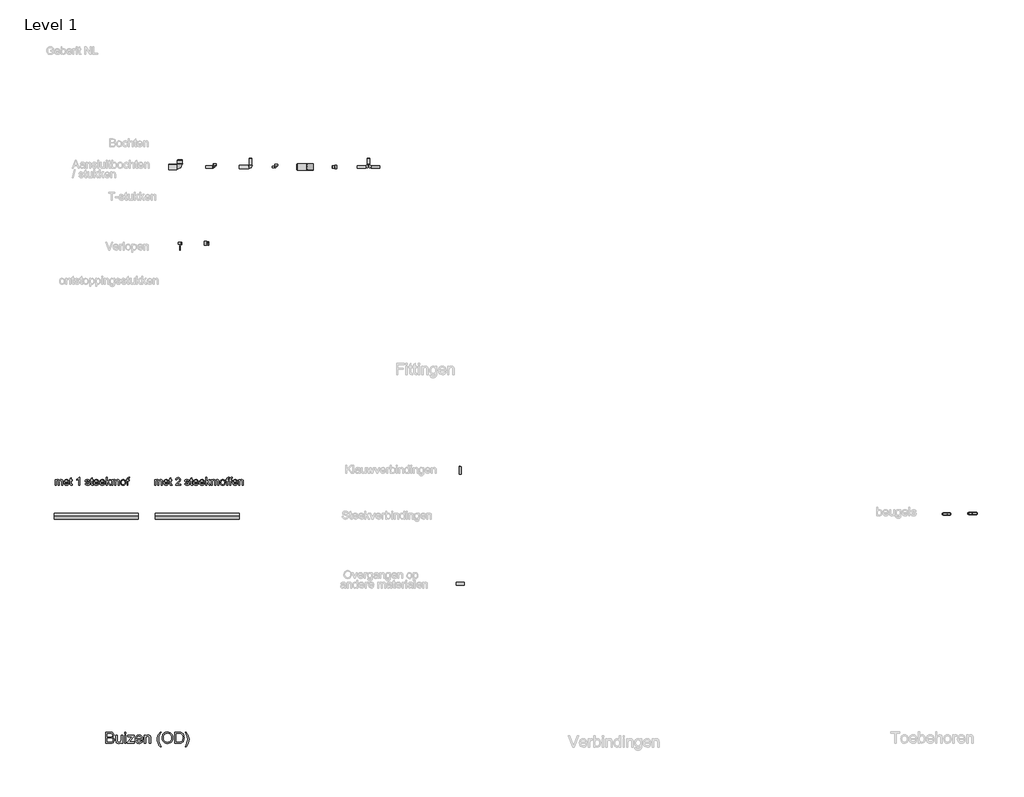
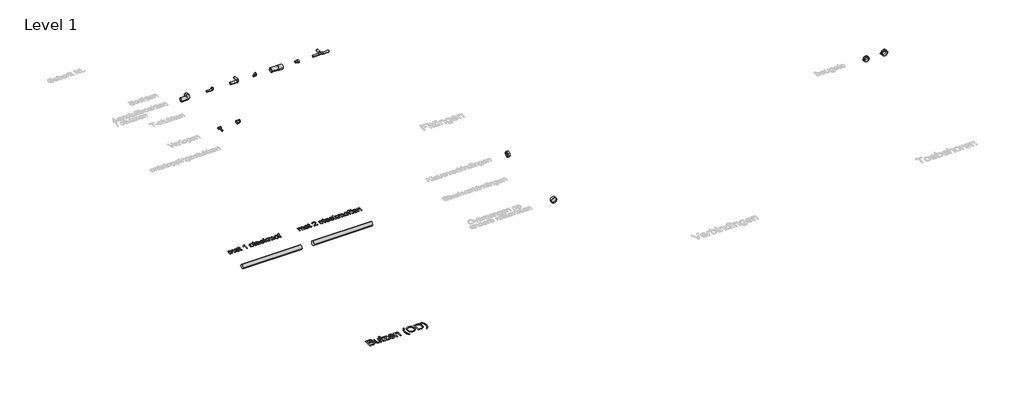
# One storey, part 1 of 6: 11 pipe fittings, 3 proxies, 2 pipe segments, 2 unitary equipment elements.
"""IFC4 building model written with IfcOpenShell, lengths in millimetres."""

from ifc_helpers import new_model, si_unit, point, frame, frame_2d, origin, origin_with_axes, place, context, project, spatial, polyline, circle_curve, trimmed, segment, composite_curve, outline, extrude, transform, mapped, element, save
from components import pipe_fitting_f48e95e4, pipe_fitting_2ba4615a, pipe_fitting_0956f5d3, pipe_fitting_4c57d8c3, pipe_fitting_612d7fab, pipe_fitting_e203270a, pipe_fitting_d0fa80fe, pipe_fitting_f22d951e, pipe_fitting_2b616865, dn30_150_od_f6babe6b, dn40_50_d46_50_a84adbf5, unitary_equipment_8c8ec3e9, dn50_100_od_e17b0297

model = new_model("IFC4")

# Units and contexts
model_context = context("Model", 3, world=origin())
ifc_project = project(units=[si_unit("LENGTHUNIT", "METRE", prefix="MILLI")], contexts=[model_context])

# Site, building, storey
site = spatial("IfcSite", under=ifc_project)
building = spatial("IfcBuilding", under=site)
storey = spatial("IfcBuildingStorey", under=building, Name="Level 1", Elevation=0.0)

# Proxies
placement = place(None, origin())
element("IfcBuildingElementProxy", 1, Name="medium", ObjectType="medium", at=placement, inside=storey, context=model_context, shape_type="SweptSolid", body=[
    extrude(outline(polyline([(-2584.8429039, 10956.4242959), (-2584.8429039, 11157.3369162), (-2508.1762961, 11157.3369162), (-2487.0905265, 11155.8592568), (-2470.6278072, 11151.4262788), (-2458.0094547, 11143.9276174), (-2448.4567856, 11133.2529082), (-2442.441915, 11120.6958695), (-2440.4369581, 11107.5502195), (-2442.1230839, 11095.4530332), (-2447.1814613, 11084.0793482), (-2455.6488786, 11074.1281402), (-2467.5621239, 11066.2983851), (-2453.331222, 11058.8671688), (-2442.8159283, 11047.5609288), (-2436.3228111, 11033.1276919), (-2434.1584387, 11016.3154847), (-2440.0690761, 10989.3129462), (-2454.7107795, 10970.0849806), (-2476.56297, 10959.8823866), (-2508.7649073, 10956.4242959), (-2584.8429039, 10956.4242959)]), holes=[polyline([(-2559.7288264, 11075.7161642), (-2513.8662043, 11075.7161642), (-2487.0843951, 11077.8744052), (-2470.9711637, 11087.169557), (-2465.5510356, 11103.528043), (-2470.6032817, 11119.9110545), (-2485.0733068, 11129.5986137), (-2517.3488206, 11132.2228386), (-2559.7288264, 11132.2228386), (-2559.7288264, 11075.7161642)]), polyline([(-2559.7288264, 10981.5383734), (-2508.2253471, 10981.5383734), (-2489.5859927, 10982.5193921), (-2473.8161178, 10987.9885711), (-2463.3682691, 10999.1476582), (-2459.2725163, 11016.07023), (-2464.0795077, 11035.5925012), (-2470.3764211, 11042.6497042), (-2479.6531788, 11047.2420977), (-2510.6778937, 11050.6020866), (-2559.7288264, 11050.6020866), (-2559.7288264, 10981.5383734)])]), origin_with_axes(), (0.0, 0.0, 1.0), 5.0),
    extrude(outline(polyline([(-2308.588051, 10956.4242959), (-2308.588051, 10981.7836281), (-2317.6747363, 10969.3154941), (-2328.257475, 10960.4096842), (-2340.3362672, 10955.0661982), (-2353.9111128, 10953.2850362), (-2377.5291369, 10958.2882313), (-2393.8140466, 10970.8452701), (-2401.2943138, 10989.3374717), (-2402.7658418, 11012.6857157), (-2402.7658418, 11103.9695014), (-2377.6517643, 11103.9695014), (-2377.6517643, 11024.5069904), (-2376.1311853, 10998.9024036), (-2372.4707595, 10990.3614099), (-2366.1983715, 10983.8682927), (-2347.4854407, 10978.3991137), (-2326.5161669, 10983.99092), (-2318.1591143, 10990.5944019), (-2312.6592784, 10999.2212346), (-2308.588051, 11027.2047917), (-2308.588051, 11103.9695014), (-2283.4739735, 11103.9695014), (-2283.4739735, 10956.4242959), (-2308.588051, 10956.4242959)])), origin_with_axes(), (0.0, 0.0, 1.0), 5.0),
    extrude(outline(polyline([(-2248.9421169, 10956.4242959), (-2248.9421169, 11103.9695014), (-2223.8280393, 11103.9695014), (-2223.8280393, 10956.4242959), (-2248.9421169, 10956.4242959)])), origin_with_axes(), (0.0, 0.0, 1.0), 5.0),
    extrude(outline(polyline([(-2248.9421169, 11132.2228386), (-2248.9421169, 11157.3369162), (-2223.8280393, 11157.3369162), (-2223.8280393, 11132.2228386), (-2248.9421169, 11132.2228386)])), origin_with_axes(), (0.0, 0.0, 1.0), 5.0),
    extrude(outline(polyline([(-2201.8532215, 10956.4242959), (-2201.8532215, 10980.0668454), (-2115.1802234, 11078.8554239), (-2140.8338612, 11078.8554239), (-2195.5747021, 11078.8554239), (-2195.5747021, 11103.9695014), (-2079.4220935, 11103.9695014), (-2079.4220935, 11082.6323457), (-2156.284905, 10994.978329), (-2168.0571289, 10981.5383734), (-2139.0189767, 10981.5383734), (-2076.2828338, 10981.5383734), (-2076.2828338, 10956.4242959), (-2201.8532215, 10956.4242959)])), origin_with_axes(), (0.0, 0.0, 1.0), 5.0),
    extrude(outline(polyline([(-1947.867492, 11000.3739316), (-1923.2439238, 10997.2346719), (-1932.1160113, 10978.6811566), (-1946.2733367, 10964.8120054), (-1965.3970691, 10956.1667785), (-1989.1683773, 10953.2850362), (-2018.6357252, 10958.2575745), (-2041.3095188, 10973.1751894), (-2055.7672812, 10997.069125), (-2060.5865353, 11028.9706253), (-2055.7182303, 11061.9451148), (-2041.1133151, 11086.6054712), (-2018.7460898, 11101.9829386), (-1990.5908544, 11107.1087611), (-1963.3124045, 11101.9952014), (-1941.5153962, 11086.6545222), (-1927.2231807, 11062.0432167), (-1922.4591089, 11029.1177781), (-1922.6062617, 11022.3487494), (-2035.4724578, 11022.3487494), (-2031.1253189, 11003.5499795), (-2021.0269581, 10989.7298792), (-2006.4526998, 10981.2318051), (-1988.677868, 10978.3991137), (-1964.0542998, 10983.6475635), (-1954.9063009, 10990.4533804), (-1947.867492, 11000.3739316)]), holes=[polyline([(-2035.4724578, 11047.4628269), (-1947.5731864, 11047.4628269), (-1950.9699635, 11060.7311042), (-1957.6286276, 11070.2224597), (-1972.270331, 11079.0516276), (-1990.6889563, 11081.9946836), (-2007.6176594, 11079.6463702), (-2021.6155693, 11072.6014299), (-2031.3460481, 11061.6201524), (-2035.4724578, 11047.4628269)])]), origin_with_axes(), (0.0, 0.0, 1.0), 5.0),
    extrude(outline(polyline([(-1897.3450314, 10956.4242959), (-1897.3450314, 11103.9695014), (-1872.2309538, 11103.9695014), (-1872.2309538, 11083.3681097), (-1863.5060192, 11093.7546447), (-1853.0275137, 11101.1735982), (-1840.7954373, 11105.6249704), (-1826.8097901, 11107.1087611), (-1803.0936642, 11102.3262952), (-1786.9068564, 11089.7692564), (-1779.3775382, 11071.3015802), (-1778.0531631, 11047.0213686), (-1778.0531631, 10956.4242959), (-1803.1672406, 10956.4242959), (-1803.1672406, 11043.6368542), (-1806.0612456, 11065.8569267), (-1816.2883651, 11077.6046251), (-1833.5297679, 11081.9946836), (-1848.2389164, 11079.5298742), (-1860.777561, 11072.1354461), (-1869.3676056, 11057.8493619), (-1872.2309538, 11034.7095844), (-1872.2309538, 10956.4242959), (-1897.3450314, 10956.4242959)])), origin_with_axes(), (0.0, 0.0, 1.0), 5.0),
    extrude(outline(polyline([(-1614.8116591, 10899.9176214), (-1634.2726166, 10927.2267282), (-1650.4716871, 10958.8277916), (-1661.3977824, 10993.1879699), (-1665.0398141, 11028.7744216), (-1662.3174874, 11059.9830775), (-1654.1505071, 11089.8428328), (-1637.9391738, 11123.6634509), (-1614.8116591, 11157.3369162), (-1595.9761009, 11157.3369162), (-1619.4714977, 11117.5566098), (-1633.5981663, 11079.0025767), (-1639.9257366, 11028.6272688), (-1637.1788844, 10996.4314628), (-1628.9383277, 10964.2479196), (-1615.2040665, 10932.0766392), (-1595.9761009, 10899.9176214), (-1614.8116591, 10899.9176214)])), origin_with_axes(), (0.0, 0.0, 1.0), 5.0),
    extrude(outline(polyline([(-1577.1405428, 11054.2318557), (-1575.4666797, 11077.7977631), (-1570.4450904, 11098.6597379), (-1562.075775, 11116.8177801), (-1550.3587335, 11132.2718896), (-1535.9960073, 11144.6112648), (-1519.6896378, 11153.4251043), (-1501.4396252, 11158.713408), (-1481.2459693, 11160.4761759), (-1454.8933558, 11157.1652379), (-1431.2630689, 11147.232424), (-1411.6426959, 11131.37671), (-1397.3198235, 11110.2970717), (-1388.564232, 11085.0113159), (-1385.6457015, 11056.5372495), (-1388.7175162, 11027.6830383), (-1397.9329602, 11002.0416633), (-1412.78313, 10980.9252368), (-1432.7591224, 10965.6458712), (-1456.1870741, 10956.3752449), (-1481.3931221, 10953.2850362), (-1508.1504059, 10956.7002074), (-1531.9155828, 10966.9457209), (-1551.486905, 10983.0957405), (-1565.6626245, 11004.2244298), (-1574.2710632, 11028.5352983), (-1577.1405428, 11054.2318557)]), holes=[polyline([(-1552.0264652, 11053.986601), (-1547.004876, 11022.5572159), (-1531.9401083, 10998.608098), (-1509.2969715, 10983.4513598), (-1481.5402749, 10978.3991137), (-1453.3789082, 10983.5004107), (-1430.6989832, 10998.8043017), (-1421.9755814, 11010.0768192), (-1415.7445801, 11023.4891836), (-1410.7597791, 11056.7334532), (-1412.8934946, 11078.9657885), (-1419.2946414, 11098.1814913), (-1429.7976723, 11113.8961839), (-1444.2370406, 11125.6254882), (-1461.6562531, 11132.9279458), (-1481.0988165, 11135.3620983), (-1508.1136177, 11130.6716029), (-1531.081717, 11116.6001166), (-1540.2450443, 11105.6510287), (-1546.7902781, 11091.5657468), (-1552.0264652, 11053.986601)])]), origin_with_axes(), (0.0, 0.0, 1.0), 5.0),
    extrude(outline(polyline([(-1351.1138449, 10956.4242959), (-1351.1138449, 11157.3369162), (-1281.804877, 11157.3369162), (-1245.9486452, 11154.4429111), (-1229.9335157, 11148.8633675), (-1216.4199837, 11140.0709879), (-1202.5263071, 11124.7670969), (-1192.6302814, 11105.735335), (-1186.7073813, 11083.3435842), (-1184.7330812, 11057.9597265), (-1190.0796329, 11017.4191307), (-1203.813894, 10988.1602493), (-1222.1589429, 10969.9378278), (-1246.1693744, 10959.8578612), (-1278.4694136, 10956.4242959), (-1351.1138449, 10956.4242959)]), holes=[polyline([(-1325.9997674, 10981.5383734), (-1281.5596224, 10981.5383734), (-1249.2350577, 10985.1681424), (-1230.5957033, 10995.4197874), (-1221.8707686, 11006.2907003), (-1215.3163378, 11020.3621866), (-1211.2144535, 11037.69556), (-1209.8471588, 11058.352134), (-1212.526566, 11085.7225544), (-1220.5647876, 11105.9315387), (-1232.4412446, 11119.8129527), (-1246.6353583, 11128.2006622), (-1282.2463354, 11132.2228386), (-1325.9997674, 11132.2228386), (-1325.9997674, 10981.5383734)])]), origin_with_axes(), (0.0, 0.0, 1.0), 5.0),
    extrude(outline(polyline([(-1147.0619649, 10899.9176214), (-1165.8975231, 10899.9176214), (-1146.6695575, 10932.0766392), (-1132.9352963, 10964.2479196), (-1124.6947396, 10996.4314628), (-1121.9478874, 11028.6272688), (-1128.2754577, 11078.5611183), (-1142.2549735, 11117.1642023), (-1165.8975231, 11157.3369162), (-1147.0619649, 11157.3369162), (-1123.9344502, 11123.6634509), (-1107.7231169, 11089.8428328), (-1099.5561366, 11059.9830775), (-1096.8338098, 11028.7744216), (-1100.4942357, 10993.1879699), (-1111.4755133, 10958.8277916), (-1127.6929779, 10927.2267282), (-1147.0619649, 10899.9176214)])), origin_with_axes(), (0.0, 0.0, 1.0), 5.0),
])
element("IfcBuildingElementProxy", 2, Name="small", ObjectType="small", at=placement, inside=storey, context=model_context, shape_type="SweptSolid", body=[
    extrude(outline(polyline([(-3490.4351093, 15570.0720581), (-3490.4351093, 15673.3537019), (-3472.8552551, 15673.3537019), (-3472.8552551, 15656.3575538), (-3460.7691053, 15670.280661), (-3443.5669432, 15675.5511837), (-3425.9527532, 15670.1776541), (-3416.2700991, 15655.1214703), (-3402.5530058, 15670.4437554), (-3385.2306689, 15675.5511837), (-3372.0157345, 15673.4266652), (-3362.2429493, 15667.0531096), (-3356.2041664, 15656.2588388), (-3354.1912387, 15640.8721743), (-3354.1912387, 15570.0720581), (-3371.771093, 15570.0720581), (-3371.771093, 15633.3183307), (-3373.4020365, 15647.9968223), (-3379.3077688, 15655.2244772), (-3389.3509473, 15657.9713295), (-3398.874799, 15656.2116272), (-3406.6389485, 15650.9325206), (-3411.8021723, 15641.7734852), (-3413.5232469, 15628.3739967), (-3413.5232469, 15570.0720581), (-3431.1031012, 15570.0720581), (-3431.1031012, 15635.2754629), (-3435.171876, 15652.3059467), (-3440.5411138, 15656.5549838), (-3448.5112772, 15657.9713295), (-3461.5244896, 15654.1944076), (-3470.1770741, 15643.1383274), (-3472.8552551, 15622.1592435), (-3472.8552551, 15570.0720581), (-3490.4351093, 15570.0720581)])), origin_with_axes(), (0.0, 0.0, 1.0), 5.0),
    extrude(outline(polyline([(-3255.5105723, 15600.8368031), (-3238.2740746, 15598.6393213), (-3244.4845358, 15585.6518606), (-3254.3946636, 15575.9434547), (-3267.7812763, 15569.8917959), (-3284.421192, 15567.8745763), (-3305.0483355, 15571.3553531), (-3320.9199911, 15581.7976835), (-3331.0404248, 15598.5234384), (-3334.4139026, 15620.8544887), (-3331.0060891, 15643.9366313), (-3320.7826485, 15661.1988808), (-3305.1255907, 15671.963108), (-3285.416926, 15675.5511837), (-3266.322011, 15671.9716919), (-3251.0641053, 15661.2332165), (-3241.0595544, 15644.0053026), (-3237.7247041, 15620.9574956), (-3237.8277111, 15616.2191756), (-3316.8340484, 15616.2191756), (-3313.7910511, 15603.0600366), (-3306.7221986, 15593.3859664), (-3296.5202177, 15587.4373145), (-3284.0778355, 15585.4544306), (-3266.8413378, 15589.1283454), (-3255.5105723, 15600.8368031)]), holes=[polyline([(-3316.8340484, 15633.7990298), (-3255.3045584, 15633.7990298), (-3262.3433672, 15649.7307728), (-3272.5925596, 15655.9111903), (-3285.4855973, 15657.9713295), (-3297.3356895, 15656.3275101), (-3307.1342264, 15651.3960519), (-3313.9455616, 15643.7091576), (-3316.8340484, 15633.7990298)])]), origin_with_axes(), (0.0, 0.0, 1.0), 5.0),
    extrude(outline(polyline([(-3182.7876595, 15584.7333819), (-3180.5901777, 15569.5570233), (-3193.7407328, 15567.8745763), (-3208.4707279, 15570.7931068), (-3215.8185576, 15578.4499574), (-3217.9473681, 15598.3989717), (-3217.9473681, 15655.7738477), (-3231.1322588, 15655.7738477), (-3231.1322588, 15673.3537019), (-3217.9473681, 15673.3537019), (-3217.9473681, 15698.4530642), (-3200.3675138, 15708.7880957), (-3200.3675138, 15673.3537019), (-3182.7876595, 15673.3537019), (-3182.7876595, 15655.7738477), (-3200.3675138, 15655.7738477), (-3200.3675138, 15598.9140065), (-3199.4404512, 15589.8493941), (-3196.4360815, 15586.6390106), (-3190.4445101, 15585.4544306), (-3182.7876595, 15584.7333819)])), origin_with_axes(), (0.0, 0.0, 1.0), 5.0),
    extrude(outline(polyline([(-3048.7412707, 15570.0720581), (-3066.3211249, 15570.0720581), (-3066.3211249, 15679.6714621), (-3082.9739166, 15667.808494), (-3101.4808335, 15658.9327277), (-3101.4808335, 15675.5511837), (-3075.711926, 15691.9979615), (-3060.0720361, 15710.7108923), (-3048.7412707, 15710.7108923), (-3048.7412707, 15570.0720581)])), origin_with_axes(), (0.0, 0.0, 1.0), 5.0),
    extrude(outline(polyline([(-2954.2495539, 15600.8368031), (-2936.6696996, 15603.0342848), (-2933.8970957, 15595.5147769), (-2928.5321499, 15589.9867367), (-2909.8878904, 15585.4544306), (-2891.9646796, 15589.6090446), (-2886.1276186, 15599.36037), (-2891.9990152, 15607.2575701), (-2910.0939043, 15612.2705755), (-2936.5666927, 15620.8716565), (-2948.1206399, 15630.914835), (-2952.0520721, 15645.0954596), (-2948.8931921, 15658.1945112), (-2940.2749432, 15668.203354), (-2929.0986882, 15673.4052054), (-2913.9738331, 15675.5511837), (-2892.5827213, 15672.1004506), (-2878.9858028, 15662.761153), (-2872.9427279, 15646.9839205), (-2890.5225822, 15644.7864387), (-2897.1321954, 15654.4862607), (-2912.600407, 15657.9713295), (-2929.4248769, 15654.6407711), (-2934.4722179, 15646.8809136), (-2932.377743, 15641.7649013), (-2925.8196333, 15637.8849725), (-2910.6776104, 15634.1423864), (-2884.8743673, 15625.867494), (-2872.8912244, 15616.4938608), (-2868.5477643, 15601.2144952), (-2873.6466088, 15584.3900253), (-2888.359436, 15572.1837007), (-2910.12824, 15567.8745763), (-2927.8540208, 15569.9518833), (-2940.789978, 15576.1838043), (-2949.4253947, 15586.501668), (-2954.2495539, 15600.8368031)])), origin_with_axes(), (0.0, 0.0, 1.0), 5.0),
    extrude(outline(polyline([(-2811.4132379, 15584.7333819), (-2809.2157561, 15569.5570233), (-2822.3663112, 15567.8745763), (-2837.0963063, 15570.7931068), (-2844.444136, 15578.4499574), (-2846.5729465, 15598.3989717), (-2846.5729465, 15655.7738477), (-2859.7578372, 15655.7738477), (-2859.7578372, 15673.3537019), (-2846.5729465, 15673.3537019), (-2846.5729465, 15698.4530642), (-2828.9930922, 15708.7880957), (-2828.9930922, 15673.3537019), (-2811.4132379, 15673.3537019), (-2811.4132379, 15655.7738477), (-2828.9930922, 15655.7738477), (-2828.9930922, 15598.9140065), (-2828.0660296, 15589.8493941), (-2825.06166, 15586.6390106), (-2819.0700885, 15585.4544306), (-2811.4132379, 15584.7333819)])), origin_with_axes(), (0.0, 0.0, 1.0), 5.0),
    extrude(outline(polyline([(-2721.5224987, 15600.8368031), (-2704.2860009, 15598.6393213), (-2710.4964622, 15585.6518606), (-2720.40659, 15575.9434547), (-2733.7932026, 15569.8917959), (-2750.4331184, 15567.8745763), (-2771.0602619, 15571.3553531), (-2786.9319174, 15581.7976835), (-2797.0523511, 15598.5234384), (-2800.425829, 15620.8544887), (-2797.0180155, 15643.9366313), (-2786.7945748, 15661.1988808), (-2771.1375171, 15671.963108), (-2751.4288523, 15675.5511837), (-2732.3339374, 15671.9716919), (-2717.0760316, 15661.2332165), (-2707.0714808, 15644.0053026), (-2703.7366305, 15620.9574956), (-2703.8396374, 15616.2191756), (-2782.8459747, 15616.2191756), (-2779.8029775, 15603.0600366), (-2772.734125, 15593.3859664), (-2762.5321441, 15587.4373145), (-2750.0897619, 15585.4544306), (-2732.8532641, 15589.1283454), (-2721.5224987, 15600.8368031)]), holes=[polyline([(-2782.8459747, 15633.7990298), (-2721.3164848, 15633.7990298), (-2728.3552936, 15649.7307728), (-2738.604486, 15655.9111903), (-2751.4975236, 15657.9713295), (-2763.3476159, 15656.3275101), (-2773.1461528, 15651.3960519), (-2779.9574879, 15643.7091576), (-2782.8459747, 15633.7990298)])]), origin_with_axes(), (0.0, 0.0, 1.0), 5.0),
    extrude(outline(polyline([(-2613.8458912, 15600.8368031), (-2596.6093935, 15598.6393213), (-2602.8198547, 15585.6518606), (-2612.7299825, 15575.9434547), (-2626.1165952, 15569.8917959), (-2642.756511, 15567.8745763), (-2663.3836544, 15571.3553531), (-2679.25531, 15581.7976835), (-2689.3757437, 15598.5234384), (-2692.7492216, 15620.8544887), (-2689.341408, 15643.9366313), (-2679.1179674, 15661.1988808), (-2663.4609097, 15671.963108), (-2643.7522449, 15675.5511837), (-2624.6573299, 15671.9716919), (-2609.3994242, 15661.2332165), (-2599.3948733, 15644.0053026), (-2596.060023, 15620.9574956), (-2596.16303, 15616.2191756), (-2675.1693673, 15616.2191756), (-2672.1263701, 15603.0600366), (-2665.0575175, 15593.3859664), (-2654.8555367, 15587.4373145), (-2642.4131544, 15585.4544306), (-2625.1766567, 15589.1283454), (-2613.8458912, 15600.8368031)]), holes=[polyline([(-2675.1693673, 15633.7990298), (-2613.6398773, 15633.7990298), (-2620.6786862, 15649.7307728), (-2630.9278786, 15655.9111903), (-2643.8209162, 15657.9713295), (-2655.6710084, 15656.3275101), (-2665.4695454, 15651.3960519), (-2672.2808805, 15643.7091576), (-2675.1693673, 15633.7990298)])]), origin_with_axes(), (0.0, 0.0, 1.0), 5.0),
    extrude(outline(polyline([(-2578.4801688, 15570.0720581), (-2578.4801688, 15710.7108923), (-2560.9003145, 15710.7108923), (-2560.9003145, 15635.1381203), (-2521.482985, 15673.3537019), (-2497.1733427, 15673.3537019), (-2537.0713714, 15634.6574211), (-2494.975861, 15570.0720581), (-2515.5085814, 15570.0720581), (-2549.672556, 15622.4339287), (-2560.9003145, 15611.5495268), (-2560.9003145, 15570.0720581), (-2578.4801688, 15570.0720581)])), origin_with_axes(), (0.0, 0.0, 1.0), 5.0),
    extrude(outline(polyline([(-2479.5934885, 15570.0720581), (-2479.5934885, 15673.3537019), (-2462.0136342, 15673.3537019), (-2462.0136342, 15656.3575538), (-2449.9274844, 15670.280661), (-2432.7253223, 15675.5511837), (-2415.1111324, 15670.1776541), (-2405.4284782, 15655.1214703), (-2391.7113849, 15670.4437554), (-2374.389048, 15675.5511837), (-2361.1741136, 15673.4266652), (-2351.4013284, 15667.0531096), (-2345.3625455, 15656.2588388), (-2343.3496178, 15640.8721743), (-2343.3496178, 15570.0720581), (-2360.9294721, 15570.0720581), (-2360.9294721, 15633.3183307), (-2362.5604156, 15647.9968223), (-2368.4661479, 15655.2244772), (-2378.5093264, 15657.9713295), (-2388.0331781, 15656.2116272), (-2395.7973276, 15650.9325206), (-2400.9605514, 15641.7734852), (-2402.681626, 15628.3739967), (-2402.681626, 15570.0720581), (-2420.2614803, 15570.0720581), (-2420.2614803, 15635.2754629), (-2424.3302552, 15652.3059467), (-2429.6994929, 15656.5549838), (-2437.6696563, 15657.9713295), (-2450.6828687, 15654.1944076), (-2459.3354533, 15643.1383274), (-2462.0136342, 15622.1592435), (-2462.0136342, 15570.0720581), (-2479.5934885, 15570.0720581)])), origin_with_axes(), (0.0, 0.0, 1.0), 5.0),
    extrude(outline(polyline([(-2321.3748, 15621.71288), (-2317.5721264, 15646.6148123), (-2306.1641058, 15664.1174113), (-2292.0693202, 15672.6927406), (-2275.1933469, 15675.5511837), (-2256.7250576, 15672.0704069), (-2241.9736027, 15661.6280765), (-2232.3038244, 15645.0482481), (-2229.080565, 15623.1549774), (-2230.5054946, 15605.394861), (-2234.7802834, 15591.8751977), (-2241.7804646, 15581.750472), (-2251.3815716, 15574.1751686), (-2262.7853003, 15569.4497244), (-2275.1933469, 15567.8745763), (-2293.8848179, 15571.3424772), (-2308.6191049, 15581.7461801), (-2318.1858762, 15598.6736569), (-2321.3748, 15621.71288)]), holes=[polyline([(-2303.7949457, 15621.7472157), (-2301.7605583, 15605.8369325), (-2295.657396, 15594.5018751), (-2286.4726088, 15587.7162917), (-2275.1933469, 15585.4544306), (-2263.9655884, 15587.7291676), (-2254.797969, 15594.5533786), (-2248.6948067, 15606.0386545), (-2246.6604193, 15622.2965861), (-2248.7076826, 15637.743338), (-2254.8494725, 15648.9238849), (-2264.0299677, 15655.7094683), (-2275.1933469, 15657.9713295), (-2286.4726088, 15655.7180522), (-2295.657396, 15648.9582206), (-2301.7605583, 15637.6489149), (-2303.7949457, 15621.7472157)])]), origin_with_axes(), (0.0, 0.0, 1.0), 5.0),
    extrude(outline(polyline([(-2204.9082654, 15570.0720581), (-2204.9082654, 15655.7738477), (-2220.2906379, 15655.7738477), (-2220.2906379, 15673.3537019), (-2204.9082654, 15673.3537019), (-2204.9082654, 15683.7574048), (-2203.0541401, 15698.4187286), (-2194.0581991, 15708.8911027), (-2176.3410022, 15712.9083741), (-2160.3062523, 15710.9855775), (-2162.8814263, 15694.5044641), (-2173.0104439, 15695.3285198), (-2184.0836919, 15692.4099893), (-2187.3284111, 15681.5255873), (-2187.3284111, 15673.3537019), (-2167.5510751, 15673.3537019), (-2167.5510751, 15655.7738477), (-2187.3284111, 15655.7738477), (-2187.3284111, 15570.0720581), (-2204.9082654, 15570.0720581)])), origin_with_axes(), (0.0, 0.0, 1.0), 5.0),
])
element("IfcBuildingElementProxy", 3, Name="small", ObjectType="small", at=placement, inside=storey, context=model_context, shape_type="SweptSolid", body=[
    extrude(outline(polyline([(-1710.4351093, 15570.0720581), (-1710.4351093, 15673.3537019), (-1692.8552551, 15673.3537019), (-1692.8552551, 15656.3575538), (-1680.7691053, 15670.280661), (-1663.5669432, 15675.5511837), (-1645.9527532, 15670.1776541), (-1636.2700991, 15655.1214703), (-1622.5530058, 15670.4437554), (-1605.2306689, 15675.5511837), (-1592.0157345, 15673.4266652), (-1582.2429493, 15667.0531096), (-1576.2041664, 15656.2588388), (-1574.1912387, 15640.8721743), (-1574.1912387, 15570.0720581), (-1591.771093, 15570.0720581), (-1591.771093, 15633.3183307), (-1593.4020365, 15647.9968223), (-1599.3077688, 15655.2244772), (-1609.3509473, 15657.9713295), (-1618.874799, 15656.2116272), (-1626.6389485, 15650.9325206), (-1631.8021723, 15641.7734852), (-1633.5232469, 15628.3739967), (-1633.5232469, 15570.0720581), (-1651.1031012, 15570.0720581), (-1651.1031012, 15635.2754629), (-1655.171876, 15652.3059467), (-1660.5411138, 15656.5549838), (-1668.5112772, 15657.9713295), (-1681.5244896, 15654.1944076), (-1690.1770741, 15643.1383274), (-1692.8552551, 15622.1592435), (-1692.8552551, 15570.0720581), (-1710.4351093, 15570.0720581)])), origin_with_axes(), (0.0, 0.0, 1.0), 5.0),
    extrude(outline(polyline([(-1475.5105723, 15600.8368031), (-1458.2740746, 15598.6393213), (-1464.4845358, 15585.6518606), (-1474.3946636, 15575.9434547), (-1487.7812763, 15569.8917959), (-1504.421192, 15567.8745763), (-1525.0483355, 15571.3553531), (-1540.9199911, 15581.7976835), (-1551.0404248, 15598.5234384), (-1554.4139026, 15620.8544887), (-1551.0060891, 15643.9366313), (-1540.7826485, 15661.1988808), (-1525.1255907, 15671.963108), (-1505.416926, 15675.5511837), (-1486.322011, 15671.9716919), (-1471.0641053, 15661.2332165), (-1461.0595544, 15644.0053026), (-1457.7247041, 15620.9574956), (-1457.8277111, 15616.2191756), (-1536.8340484, 15616.2191756), (-1533.7910511, 15603.0600366), (-1526.7221986, 15593.3859664), (-1516.5202177, 15587.4373145), (-1504.0778355, 15585.4544306), (-1486.8413378, 15589.1283454), (-1475.5105723, 15600.8368031)]), holes=[polyline([(-1536.8340484, 15633.7990298), (-1475.3045584, 15633.7990298), (-1482.3433672, 15649.7307728), (-1492.5925596, 15655.9111903), (-1505.4855973, 15657.9713295), (-1517.3356895, 15656.3275101), (-1527.1342264, 15651.3960519), (-1533.9455616, 15643.7091576), (-1536.8340484, 15633.7990298)])]), origin_with_axes(), (0.0, 0.0, 1.0), 5.0),
    extrude(outline(polyline([(-1402.7876595, 15584.7333819), (-1400.5901777, 15569.5570233), (-1413.7407328, 15567.8745763), (-1428.4707279, 15570.7931068), (-1435.8185576, 15578.4499574), (-1437.9473681, 15598.3989717), (-1437.9473681, 15655.7738477), (-1451.1322588, 15655.7738477), (-1451.1322588, 15673.3537019), (-1437.9473681, 15673.3537019), (-1437.9473681, 15698.4530642), (-1420.3675138, 15708.7880957), (-1420.3675138, 15673.3537019), (-1402.7876595, 15673.3537019), (-1402.7876595, 15655.7738477), (-1420.3675138, 15655.7738477), (-1420.3675138, 15598.9140065), (-1419.4404512, 15589.8493941), (-1416.4360815, 15586.6390106), (-1410.4445101, 15585.4544306), (-1402.7876595, 15584.7333819)])), origin_with_axes(), (0.0, 0.0, 1.0), 5.0),
    extrude(outline(polyline([(-1244.568971, 15587.6519124), (-1244.568971, 15570.0720581), (-1336.863206, 15570.0720581), (-1334.9747451, 15582.1925435), (-1324.296357, 15600.8539709), (-1302.2872035, 15621.2321809), (-1271.9344864, 15650.5204928), (-1266.2433519, 15660.6151747), (-1264.3463071, 15670.4351715), (-1266.136053, 15679.2379745), (-1271.5052907, 15686.5557605), (-1279.7587233, 15691.4872186), (-1290.2010537, 15693.131038), (-1301.1670029, 15691.5258462), (-1309.6865367, 15686.7102709), (-1315.1845331, 15679.0620042), (-1317.0858699, 15668.9587384), (-1334.6657242, 15671.1562202), (-1330.4038113, 15688.1609523), (-1321.1889804, 15700.5818747), (-1307.5019308, 15708.1786379), (-1289.8233615, 15710.7108923), (-1272.0160336, 15707.8953687), (-1258.3547357, 15699.4487981), (-1249.6635235, 15686.8304457), (-1246.7664528, 15671.4995767), (-1249.8909972, 15654.8296172), (-1260.2775322, 15637.5931195), (-1285.4627336, 15613.506659), (-1305.6864332, 15596.5963499), (-1313.617969, 15587.6519124), (-1244.568971, 15587.6519124)])), origin_with_axes(), (0.0, 0.0, 1.0), 5.0),
    extrude(outline(polyline([(-1174.2495539, 15600.8368031), (-1156.6696996, 15603.0342848), (-1153.8970957, 15595.5147769), (-1148.5321499, 15589.9867367), (-1129.8878904, 15585.4544306), (-1111.9646796, 15589.6090446), (-1106.1276186, 15599.36037), (-1111.9990152, 15607.2575701), (-1130.0939043, 15612.2705755), (-1156.5666927, 15620.8716565), (-1168.1206399, 15630.914835), (-1172.0520721, 15645.0954596), (-1168.8931921, 15658.1945112), (-1160.2749432, 15668.203354), (-1149.0986882, 15673.4052054), (-1133.9738331, 15675.5511837), (-1112.5827213, 15672.1004506), (-1098.9858028, 15662.761153), (-1092.9427279, 15646.9839205), (-1110.5225822, 15644.7864387), (-1117.1321954, 15654.4862607), (-1132.600407, 15657.9713295), (-1149.4248769, 15654.6407711), (-1154.4722179, 15646.8809136), (-1152.377743, 15641.7649013), (-1145.8196333, 15637.8849725), (-1130.6776104, 15634.1423864), (-1104.8743673, 15625.867494), (-1092.8912244, 15616.4938608), (-1088.5477643, 15601.2144952), (-1093.6466088, 15584.3900253), (-1108.359436, 15572.1837007), (-1130.12824, 15567.8745763), (-1147.8540208, 15569.9518833), (-1160.789978, 15576.1838043), (-1169.4253947, 15586.501668), (-1174.2495539, 15600.8368031)])), origin_with_axes(), (0.0, 0.0, 1.0), 5.0),
    extrude(outline(polyline([(-1031.4132379, 15584.7333819), (-1029.2157561, 15569.5570233), (-1042.3663112, 15567.8745763), (-1057.0963063, 15570.7931068), (-1064.444136, 15578.4499574), (-1066.5729465, 15598.3989717), (-1066.5729465, 15655.7738477), (-1079.7578372, 15655.7738477), (-1079.7578372, 15673.3537019), (-1066.5729465, 15673.3537019), (-1066.5729465, 15698.4530642), (-1048.9930922, 15708.7880957), (-1048.9930922, 15673.3537019), (-1031.4132379, 15673.3537019), (-1031.4132379, 15655.7738477), (-1048.9930922, 15655.7738477), (-1048.9930922, 15598.9140065), (-1048.0660296, 15589.8493941), (-1045.06166, 15586.6390106), (-1039.0700885, 15585.4544306), (-1031.4132379, 15584.7333819)])), origin_with_axes(), (0.0, 0.0, 1.0), 5.0),
    extrude(outline(polyline([(-941.5224987, 15600.8368031), (-924.2860009, 15598.6393213), (-930.4964622, 15585.6518606), (-940.40659, 15575.9434547), (-953.7932026, 15569.8917959), (-970.4331184, 15567.8745763), (-991.0602619, 15571.3553531), (-1006.9319174, 15581.7976835), (-1017.0523511, 15598.5234384), (-1020.425829, 15620.8544887), (-1017.0180155, 15643.9366313), (-1006.7945748, 15661.1988808), (-991.1375171, 15671.963108), (-971.4288523, 15675.5511837), (-952.3339374, 15671.9716919), (-937.0760316, 15661.2332165), (-927.0714808, 15644.0053026), (-923.7366305, 15620.9574956), (-923.8396374, 15616.2191756), (-1002.8459747, 15616.2191756), (-999.8029775, 15603.0600366), (-992.734125, 15593.3859664), (-982.5321441, 15587.4373145), (-970.0897619, 15585.4544306), (-952.8532641, 15589.1283454), (-941.5224987, 15600.8368031)]), holes=[polyline([(-1002.8459747, 15633.7990298), (-941.3164848, 15633.7990298), (-948.3552936, 15649.7307728), (-958.604486, 15655.9111903), (-971.4975236, 15657.9713295), (-983.3476159, 15656.3275101), (-993.1461528, 15651.3960519), (-999.9574879, 15643.7091576), (-1002.8459747, 15633.7990298)])]), origin_with_axes(), (0.0, 0.0, 1.0), 5.0),
    extrude(outline(polyline([(-833.8458912, 15600.8368031), (-816.6093935, 15598.6393213), (-822.8198547, 15585.6518606), (-832.7299825, 15575.9434547), (-846.1165952, 15569.8917959), (-862.756511, 15567.8745763), (-883.3836544, 15571.3553531), (-899.25531, 15581.7976835), (-909.3757437, 15598.5234384), (-912.7492216, 15620.8544887), (-909.341408, 15643.9366313), (-899.1179674, 15661.1988808), (-883.4609097, 15671.963108), (-863.7522449, 15675.5511837), (-844.6573299, 15671.9716919), (-829.3994242, 15661.2332165), (-819.3948733, 15644.0053026), (-816.060023, 15620.9574956), (-816.16303, 15616.2191756), (-895.1693673, 15616.2191756), (-892.1263701, 15603.0600366), (-885.0575175, 15593.3859664), (-874.8555367, 15587.4373145), (-862.4131544, 15585.4544306), (-845.1766567, 15589.1283454), (-833.8458912, 15600.8368031)]), holes=[polyline([(-895.1693673, 15633.7990298), (-833.6398773, 15633.7990298), (-840.6786862, 15649.7307728), (-850.9278786, 15655.9111903), (-863.8209162, 15657.9713295), (-875.6710084, 15656.3275101), (-885.4695454, 15651.3960519), (-892.2808805, 15643.7091576), (-895.1693673, 15633.7990298)])]), origin_with_axes(), (0.0, 0.0, 1.0), 5.0),
    extrude(outline(polyline([(-798.4801688, 15570.0720581), (-798.4801688, 15710.7108923), (-780.9003145, 15710.7108923), (-780.9003145, 15635.1381203), (-741.482985, 15673.3537019), (-717.1733427, 15673.3537019), (-757.0713714, 15634.6574211), (-714.975861, 15570.0720581), (-735.5085814, 15570.0720581), (-769.672556, 15622.4339287), (-780.9003145, 15611.5495268), (-780.9003145, 15570.0720581), (-798.4801688, 15570.0720581)])), origin_with_axes(), (0.0, 0.0, 1.0), 5.0),
    extrude(outline(polyline([(-699.5934885, 15570.0720581), (-699.5934885, 15673.3537019), (-682.0136342, 15673.3537019), (-682.0136342, 15656.3575538), (-669.9274844, 15670.280661), (-652.7253223, 15675.5511837), (-635.1111324, 15670.1776541), (-625.4284782, 15655.1214703), (-611.7113849, 15670.4437554), (-594.389048, 15675.5511837), (-581.1741136, 15673.4266652), (-571.4013284, 15667.0531096), (-565.3625455, 15656.2588388), (-563.3496178, 15640.8721743), (-563.3496178, 15570.0720581), (-580.9294721, 15570.0720581), (-580.9294721, 15633.3183307), (-582.5604156, 15647.9968223), (-588.4661479, 15655.2244772), (-598.5093264, 15657.9713295), (-608.0331781, 15656.2116272), (-615.7973276, 15650.9325206), (-620.9605514, 15641.7734852), (-622.681626, 15628.3739967), (-622.681626, 15570.0720581), (-640.2614803, 15570.0720581), (-640.2614803, 15635.2754629), (-644.3302552, 15652.3059467), (-649.6994929, 15656.5549838), (-657.6696563, 15657.9713295), (-670.6828687, 15654.1944076), (-679.3354533, 15643.1383274), (-682.0136342, 15622.1592435), (-682.0136342, 15570.0720581), (-699.5934885, 15570.0720581)])), origin_with_axes(), (0.0, 0.0, 1.0), 5.0),
    extrude(outline(polyline([(-541.3748, 15621.71288), (-537.5721264, 15646.6148123), (-526.1641058, 15664.1174113), (-512.0693202, 15672.6927406), (-495.1933469, 15675.5511837), (-476.7250576, 15672.0704069), (-461.9736027, 15661.6280765), (-452.3038244, 15645.0482481), (-449.080565, 15623.1549774), (-450.5054946, 15605.394861), (-454.7802834, 15591.8751977), (-461.7804646, 15581.750472), (-471.3815716, 15574.1751686), (-482.7853003, 15569.4497244), (-495.1933469, 15567.8745763), (-513.8848179, 15571.3424772), (-528.6191049, 15581.7461801), (-538.1858762, 15598.6736569), (-541.3748, 15621.71288)]), holes=[polyline([(-523.7949457, 15621.7472157), (-521.7605583, 15605.8369325), (-515.657396, 15594.5018751), (-506.4726088, 15587.7162917), (-495.1933469, 15585.4544306), (-483.9655884, 15587.7291676), (-474.797969, 15594.5533786), (-468.6948067, 15606.0386545), (-466.6604193, 15622.2965861), (-468.7076826, 15637.743338), (-474.8494725, 15648.9238849), (-484.0299677, 15655.7094683), (-495.1933469, 15657.9713295), (-506.4726088, 15655.7180522), (-515.657396, 15648.9582206), (-521.7605583, 15637.6489149), (-523.7949457, 15621.7472157)])]), origin_with_axes(), (0.0, 0.0, 1.0), 5.0),
    extrude(outline(polyline([(-424.9082654, 15570.0720581), (-424.9082654, 15655.7738477), (-440.2906379, 15655.7738477), (-440.2906379, 15673.3537019), (-424.9082654, 15673.3537019), (-424.9082654, 15683.7574048), (-423.0541401, 15698.4187286), (-414.0581991, 15708.8911027), (-396.3410022, 15712.9083741), (-380.3062523, 15710.9855775), (-382.8814263, 15694.5044641), (-393.0104439, 15695.3285198), (-404.0836919, 15692.4099893), (-407.3284111, 15681.5255873), (-407.3284111, 15673.3537019), (-387.5510751, 15673.3537019), (-387.5510751, 15655.7738477), (-407.3284111, 15655.7738477), (-407.3284111, 15570.0720581), (-424.9082654, 15570.0720581)])), origin_with_axes(), (0.0, 0.0, 1.0), 5.0),
    extrude(outline(polyline([(-367.773739, 15570.0720581), (-367.773739, 15655.7738477), (-383.1561115, 15655.7738477), (-383.1561115, 15673.3537019), (-367.773739, 15673.3537019), (-367.773739, 15683.7574048), (-365.9196137, 15698.4187286), (-356.9236727, 15708.8911027), (-339.2064758, 15712.9083741), (-323.1717259, 15710.9855775), (-325.7468999, 15694.5044641), (-335.8759175, 15695.3285198), (-346.9491655, 15692.4099893), (-350.1938847, 15681.5255873), (-350.1938847, 15673.3537019), (-330.4165487, 15673.3537019), (-330.4165487, 15655.7738477), (-350.1938847, 15655.7738477), (-350.1938847, 15570.0720581), (-367.773739, 15570.0720581)])), origin_with_axes(), (0.0, 0.0, 1.0), 5.0),
    extrude(outline(polyline([(-242.7232912, 15600.8368031), (-225.4867935, 15598.6393213), (-231.6972547, 15585.6518606), (-241.6073825, 15575.9434547), (-254.9939952, 15569.8917959), (-271.6339109, 15567.8745763), (-292.2610544, 15571.3553531), (-308.1327099, 15581.7976835), (-318.2531436, 15598.5234384), (-321.6266215, 15620.8544887), (-318.218808, 15643.9366313), (-307.9953673, 15661.1988808), (-292.3383096, 15671.963108), (-272.6296449, 15675.5511837), (-253.5347299, 15671.9716919), (-238.2768242, 15661.2332165), (-228.2722733, 15644.0053026), (-224.937423, 15620.9574956), (-225.04043, 15616.2191756), (-304.0467673, 15616.2191756), (-301.00377, 15603.0600366), (-293.9349175, 15593.3859664), (-283.7329366, 15587.4373145), (-271.2905544, 15585.4544306), (-254.0540567, 15589.1283454), (-242.7232912, 15600.8368031)]), holes=[polyline([(-304.0467673, 15633.7990298), (-242.5172773, 15633.7990298), (-249.5560861, 15649.7307728), (-259.8052785, 15655.9111903), (-272.6983162, 15657.9713295), (-284.5484084, 15656.3275101), (-294.3469453, 15651.3960519), (-301.1582805, 15643.7091576), (-304.0467673, 15633.7990298)])]), origin_with_axes(), (0.0, 0.0, 1.0), 5.0),
    extrude(outline(polyline([(-207.3575687, 15570.0720581), (-207.3575687, 15673.3537019), (-189.7777145, 15673.3537019), (-189.7777145, 15658.9327277), (-176.3353064, 15671.3965697), (-157.9828999, 15675.5511837), (-141.3816117, 15672.2034576), (-130.0508463, 15663.4135304), (-124.7803236, 15650.4861571), (-123.8532609, 15633.490009), (-123.8532609, 15570.0720581), (-141.4331152, 15570.0720581), (-141.4331152, 15631.1208489), (-143.4589187, 15646.6748997), (-150.6179023, 15654.8982885), (-162.6868843, 15657.9713295), (-172.9832882, 15656.2459629), (-181.7603395, 15651.0698632), (-187.7733707, 15641.0696043), (-189.7777145, 15624.8717601), (-189.7777145, 15570.0720581), (-207.3575687, 15570.0720581)])), origin_with_axes(), (0.0, 0.0, 1.0), 5.0),
])

# Pipe fittings
pipe_fitting_shape = pipe_fitting_f48e95e4(model_context)
element("IfcPipeFitting", 4, ObjectType="NLRS_52_PIF_UN_Geberit overgangsklemkoppeling_PRO_101613 : d48-210 / ø48-210", at=placement, inside=storey, context=model_context, shape_type="MappedRepresentation", body=[
    mapped(pipe_fitting_shape, transform((3750.3961154, 13808.2722699, 0.0), x_axis=(0.0, -1.0, 0.0), y_axis=(1.0, 0.0, 0.0), z_axis=(0.0, 0.0, 1.0))),
])
pipe_fitting_2_shape = pipe_fitting_2ba4615a(model_context)
element("IfcPipeFitting", 5, ObjectType="NLRS_52_PIF_UN_Geberit Silent-PP aansluitbocht 87,5° voor wc_PRO_101524 : DN90-100 / d90-110 - OD", at=placement, inside=storey, context=model_context, shape_type="MappedRepresentation", body=[
    mapped(pipe_fitting_2_shape, transform((-1259.0077904, 21260.964942, 0.0), x_axis=(1.0, 0.0, 0.0), y_axis=(0.0, 1.0, 0.0), z_axis=(0.0, 0.0, 1.0))),
])
pipe_fitting_3_shape = pipe_fitting_0956f5d3(model_context)
element("IfcPipeFitting", 6, ObjectType="NLRS_52_PIF_UN_Geberit Silent-PP aansluitbocht 90° lang_PRO_101523 : DN40-40 / d40-46 - OD", at=placement, inside=storey, context=model_context, shape_type="MappedRepresentation", body=[
    mapped(pipe_fitting_3_shape, transform((-639.0077904, 21260.964942, 0.0), x_axis=(1.0, 0.0, 0.0), y_axis=(0.0, 1.0, 0.0), z_axis=(0.0, 0.0, 1.0))),
])
pipe_fitting_4_shape = pipe_fitting_4c57d8c3(model_context)
element("IfcPipeFitting", 7, ObjectType="NLRS_52_PIF_UN_Geberit Silent-PP aansluitbocht 90°_PRO_101520 : DN30-50 / d32-58 - OD", at=placement, inside=storey, context=model_context, shape_type="MappedRepresentation", body=[
    mapped(pipe_fitting_4_shape, transform((460.9922096, 21260.964942, 0.0), x_axis=(1.0, 0.0, 0.0), y_axis=(0.0, 1.0, 0.0), z_axis=(0.0, 0.0, 1.0))),
])
pipe_fitting_5_shape = pipe_fitting_612d7fab(model_context)
element("IfcPipeFitting", 8, ObjectType="NLRS_52_PIF_UN_Geberit Silent-PP aansluitstuk voor wc_PRO_101526 : DN100-100 / d110-110 - OD", at=placement, inside=storey, context=model_context, shape_type="MappedRepresentation", body=[
    mapped(pipe_fitting_5_shape, transform((1011.3752995, 21260.964942, 0.0), x_axis=(1.0, 0.0, 0.0), y_axis=(0.0, 1.0, 0.0), z_axis=(0.0, 0.0, 1.0))),
])
pipe_fitting_6_shape = pipe_fitting_e203270a(model_context)
element("IfcPipeFitting", 9, ObjectType="NLRS_52_PIF_UN_Geberit Silent-PP verloop centrisch, kort_PRO_101513 : DN30-50 / d32-50 - OD", at=placement, inside=storey, context=model_context, shape_type="MappedRepresentation", body=[
    mapped(pipe_fitting_6_shape, transform((-1259.0077904, 19895.2036212, 0.0), x_axis=(1.0, 0.0, 0.0), y_axis=(0.0, 1.0, 0.0), z_axis=(0.0, 0.0, 1.0))),
])
pipe_fitting_7_shape = pipe_fitting_d0fa80fe(model_context)
element("IfcPipeFitting", 10, ObjectType="NLRS_52_PIF_UN_Geberit Silent-PP aansluitbocht 90° verlengd_PRO_101521 : DN40-50 / d40-50 - OD", at=placement, inside=storey, context=model_context, shape_type="MappedRepresentation", body=[
    mapped(pipe_fitting_7_shape, transform((0.9922096, 21260.964942, 0.0), x_axis=(1.0, 0.0, 0.0), y_axis=(0.0, 1.0, 0.0), z_axis=(0.0, 0.0, 1.0))),
])
pipe_fitting_8_shape = pipe_fitting_f22d951e(model_context)
element("IfcPipeFitting", 11, ObjectType="NLRS_52_PIF_UN_Geberit Silent-PP aansluitstuk_PRO_101525 : DN30-50 / d32-50 - OD", at=placement, inside=storey, context=model_context, shape_type="MappedRepresentation", body=[
    mapped(pipe_fitting_8_shape, transform((1511.3752995, 21260.964942, 0.0), x_axis=(1.0, 0.0, 0.0), y_axis=(0.0, 1.0, 0.0), z_axis=(0.0, 0.0, 1.0))),
])
pipe_fitting_9_shape = pipe_fitting_2b616865(model_context)
element("IfcPipeFitting", 12, ObjectType="NLRS_52_PIF_UN_Geberit Silent-PP verloop excentrisch, kort_PRO_135379 : DN50-100 / d50-110 - OD", at=placement, inside=storey, context=model_context, shape_type="MappedRepresentation", body=[
    mapped(pipe_fitting_9_shape, transform((-785.4056252, 19895.2036212, 0.0), x_axis=(1.0, 0.0, 0.0), y_axis=(0.0, 1.0, 0.0), z_axis=(0.0, 0.0, 1.0))),
])
dn30_150_od_shape = dn30_150_od_f6babe6b(model_context)
element("IfcPipeFitting", 13, ObjectType="NLRS_52_PIF_UN_Geberit fixatieklauw_PRO_223189 : DN30-150 - OD", at=placement, inside=storey, context=model_context, shape_type="MappedRepresentation", body=[
    mapped(dn30_150_od_shape, transform((3731.3752995, 15835.2036212, 0.0), x_axis=(1.0, 0.0, 0.0), y_axis=(0.0, 1.0, 0.0), z_axis=(0.0, 0.0, 1.0))),
])
dn40_50_d46_50_shape = dn40_50_d46_50_a84adbf5(model_context)
element("IfcPipeFitting", 14, ObjectType="NLRS_52_PIF_UN_Geberit Silent-PP dubbele aansluitbocht 90° verlengd_PRO_101522 : DN40-50 / d46-50", at=placement, inside=storey, context=model_context, shape_type="MappedRepresentation", body=[
    mapped(dn40_50_d46_50_shape, transform((2111.3752995, 21260.964942, 0.0), x_axis=(1.0, 0.0, 0.0), y_axis=(0.0, 1.0, 0.0), z_axis=(0.0, 0.0, 1.0))),
])

# Pipe segments
element("IfcPipeSegment", 15, ObjectType="NLRS_52_PI_Geberit Silent-PP buis met steekmof_PRO_101480 - OD", at=placement, inside=storey, context=model_context, shape_type="SweptSolid", body=[
    extrude(outline(composite_curve([segment(trimmed(circle_curve(frame_2d((15015.2036212, 0.0)), 55.0), [point((14960.2036212, 0.0))], [point((15015.2036212, 55.0))], False, "CARTESIAN"), True, "CONTINUOUS"), segment(trimmed(circle_curve(frame_2d((15015.2036212, 0.0)), 55.0), [point((15015.2036212, 55.0))], [point((15070.2036212, 0.0))], False, "CARTESIAN"), True, "CONTINUOUS"), segment(trimmed(circle_curve(frame_2d((15015.2036212, 0.0)), 55.0), [point((15070.2036212, 0.0))], [point((15015.2036212, -55.0))], False, "CARTESIAN"), True, "CONTINUOUS"), segment(trimmed(circle_curve(frame_2d((15015.2036212, 0.0)), 55.0), [point((15015.2036212, -55.0))], [point((14960.2036212, 0.0))], False, "CARTESIAN"), True, "CONTINUOUS")], self_intersect=False)), frame((-3502.4750928, 0.0, 0.0), z_axis=(1.0, 0.0, 0.0), x_axis=(0.0, 1.0, 0.0)), (0.0, 0.0, 1.0), 1500.0),
])
element("IfcPipeSegment", 16, ObjectType="NLRS_52_PI_Geberit Silent-PP buis met twee steekmoffen_PRO_101487 - OD", at=placement, inside=storey, context=model_context, shape_type="SweptSolid", body=[
    extrude(outline(composite_curve([segment(trimmed(circle_curve(frame_2d((15015.2036212, 0.0)), 55.0), [point((14960.2036212, 0.0))], [point((15015.2036212, 55.0))], False, "CARTESIAN"), True, "CONTINUOUS"), segment(trimmed(circle_curve(frame_2d((15015.2036212, 0.0)), 55.0), [point((15015.2036212, 55.0))], [point((15070.2036212, 0.0))], False, "CARTESIAN"), True, "CONTINUOUS"), segment(trimmed(circle_curve(frame_2d((15015.2036212, 0.0)), 55.0), [point((15070.2036212, 0.0))], [point((15015.2036212, -55.0))], False, "CARTESIAN"), True, "CONTINUOUS"), segment(trimmed(circle_curve(frame_2d((15015.2036212, 0.0)), 55.0), [point((15015.2036212, -55.0))], [point((14960.2036212, 0.0))], False, "CARTESIAN"), True, "CONTINUOUS")], self_intersect=False)), frame((-1696.3931595, 0.0, 0.0), z_axis=(1.0, 0.0, 0.0), x_axis=(0.0, 1.0, 0.0)), (0.0, 0.0, 1.0), 1500.0),
])

# Unitary equipment
unitary_equipment_shape = unitary_equipment_8c8ec3e9(model_context)
element("IfcUnitaryEquipment", 17, ObjectType="NLRS_52_ME_UN_Geberit beugel geïsoleerd, met draadbus M10 _ M12_PRO_334350 : DN125-150 - OD", at=placement, inside=storey, context=model_context, shape_type="MappedRepresentation", body=[
    mapped(unitary_equipment_shape, transform((12915.4978814, 15065.1223246, 0.0), x_axis=(1.0, 0.0, 0.0), y_axis=(0.0, 1.0, 0.0), z_axis=(0.0, 0.0, 1.0))),
])
dn50_100_od_shape = dn50_100_od_e17b0297(model_context)
element("IfcUnitaryEquipment", 18, ObjectType="NLRS_52_ME_UN_Geberit beugel geïsoleerd, met draadbus M8 _ M10_PRO_178429 : DN50-100 - OD", at=placement, inside=storey, context=model_context, shape_type="MappedRepresentation", body=[
    mapped(dn50_100_od_shape, transform((12450.0295861, 15058.2519439, 0.0), x_axis=(1.0, 0.0, 0.0), y_axis=(0.0, 1.0, 0.0), z_axis=(0.0, 0.0, 1.0))),
])

save(model, "model.ifc")
